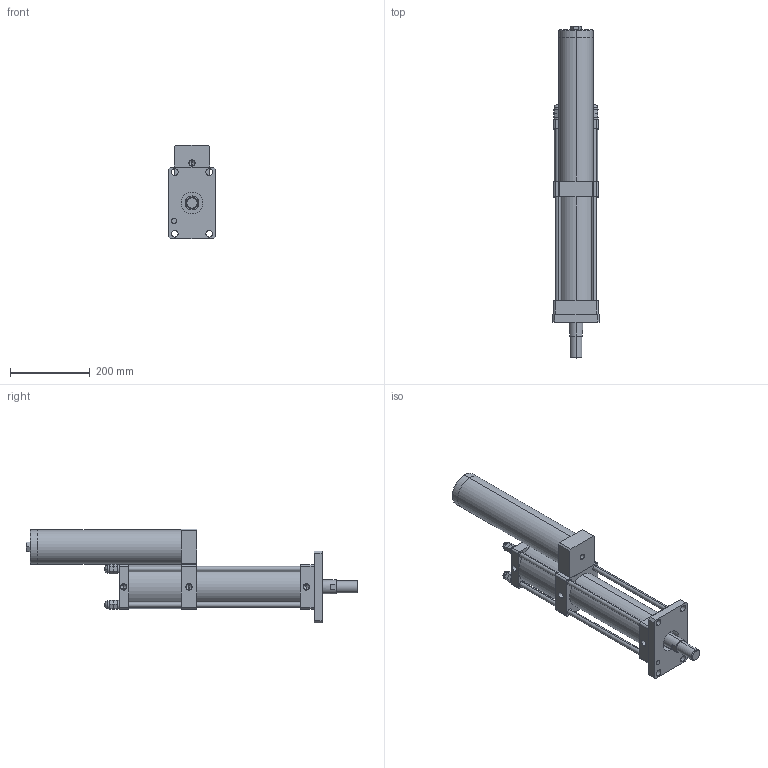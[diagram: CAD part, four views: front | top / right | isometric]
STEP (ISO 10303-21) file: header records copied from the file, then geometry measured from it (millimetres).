
FILE_DESCRIPTION (( 'STEP AP203' ), '1' );
FILE_NAME ('CPT-80-200-5-8T.STEP', '2016-03-11T03:17:30', ( 'WIN' ), ( '' ), 'SwSTEP 2.0', 'SolidWorks 2014', '' );
FILE_SCHEMA (( 'CONFIG_CONTROL_DESIGN' ));
Length unit declared in the file: millimetre
Products named in the file (1): CPT-80-200-5-8T
Bounding box: 118 x 835 x 235 mm (x, y, z)
Volume: 5414919.5 mm3; surface area: 679266.1 mm2
Topology: 17 solids, 17 shells, 389 faces, 959 edges, 560 vertices
Faces by surface type: plane 181, cylinder 90, bspline 48, torus 46, cone 24
Entity records: 12577 total; most frequent: CARTESIAN_POINT 3667, DIRECTION 1874, ORIENTED_EDGE 1786, EDGE_CURVE 893, AXIS2_PLACEMENT_3D 687, VERTEX_POINT 560, VECTOR 500, LINE 500
